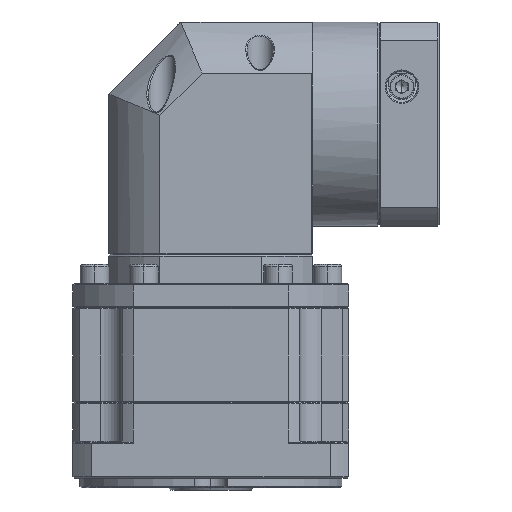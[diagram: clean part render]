
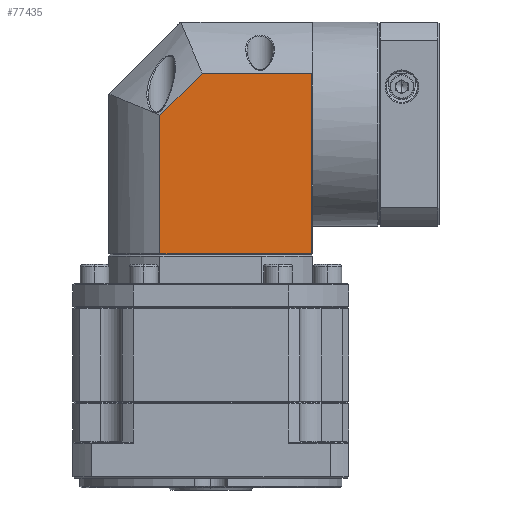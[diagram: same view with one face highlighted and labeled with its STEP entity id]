
A CAD part, front view. The second image highlights one B-rep face of the part: STEP entity #77435.
In plain terms, the highlighted planar face has unit normal (0, -1, 0).
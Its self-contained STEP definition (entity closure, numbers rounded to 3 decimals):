
#4655 = EDGE_CURVE ( 'NONE', #13163, #32283, #121023, .T. ) ;
#5047 = CARTESIAN_POINT ( 'NONE',  ( 103.008, 52.79, 49.739 ) ) ;
#7837 = VERTEX_POINT ( 'NONE', #38185 ) ;
#10824 = ORIENTED_EDGE ( 'NONE', *, *, #4655, .F. ) ;
#13163 = VERTEX_POINT ( 'NONE', #24930 ) ;
#14314 = DIRECTION ( 'NONE',  ( 0., 0., 1. ) ) ;
#17048 = EDGE_CURVE ( 'NONE', #54670, #13163, #22186, .T. ) ;
#19219 = DIRECTION ( 'NONE',  ( 1., 0., 0. ) ) ;
#20607 = CARTESIAN_POINT ( 'NONE',  ( 103.508, 52.79, 71.026 ) ) ;
#21070 = DIRECTION ( 'NONE',  ( -1., 0., 0. ) ) ;
#22186 = LINE ( 'NONE', #108319, #102971 ) ;
#24930 = CARTESIAN_POINT ( 'NONE',  ( 57.326, 52.79, 49.739 ) ) ;
#32283 = VERTEX_POINT ( 'NONE', #5047 ) ;
#33575 = ORIENTED_EDGE ( 'NONE', *, *, #49769, .F. ) ;
#38185 = CARTESIAN_POINT ( 'NONE',  ( 103.008, 52.79, -25.474 ) ) ;
#39923 = CARTESIAN_POINT ( 'NONE',  ( 103.508, 52.79, -25.474 ) ) ;
#40187 = EDGE_LOOP ( 'NONE', ( #61792, #124818, #10824, #102368, #33575 ) ) ;
#42417 = EDGE_CURVE ( 'NONE', #32283, #7837, #65817, .T. ) ;
#42484 = DIRECTION ( 'NONE',  ( 0.707, 0., 0.707 ) ) ;
#43924 = CARTESIAN_POINT ( 'NONE',  ( 103.508, 52.79, 49.739 ) ) ;
#45179 = VECTOR ( 'NONE', #118847, 1000. ) ;
#49769 = EDGE_CURVE ( 'NONE', #65792, #54670, #96739, .T. ) ;
#54670 = VERTEX_POINT ( 'NONE', #128621 ) ;
#61792 = ORIENTED_EDGE ( 'NONE', *, *, #66881, .T. ) ;
#65792 = VERTEX_POINT ( 'NONE', #137639 ) ;
#65817 = LINE ( 'NONE', #107901, #45179 ) ;
#66881 = EDGE_CURVE ( 'NONE', #65792, #7837, #123897, .T. ) ;
#77435 = ADVANCED_FACE ( 'NONE', ( #114153 ), #86382, .F. ) ;
#86382 = PLANE ( 'NONE',  #129720 ) ;
#89642 = VECTOR ( 'NONE', #19219, 1000. ) ;
#96739 = LINE ( 'NONE', #135746, #115551 ) ;
#100523 = DIRECTION ( 'NONE',  ( 1., 0., 0. ) ) ;
#102368 = ORIENTED_EDGE ( 'NONE', *, *, #17048, .F. ) ;
#102971 = VECTOR ( 'NONE', #42484, 1000. ) ;
#107901 = CARTESIAN_POINT ( 'NONE',  ( 103.008, 52.79, 71.026 ) ) ;
#108319 = CARTESIAN_POINT ( 'NONE',  ( 39.795, 52.79, 32.209 ) ) ;
#114153 = FACE_OUTER_BOUND ( 'NONE', #40187, .T. ) ;
#115551 = VECTOR ( 'NONE', #14314, 1000. ) ;
#118569 = DIRECTION ( 'NONE',  ( 0., 1., 0. ) ) ;
#118847 = DIRECTION ( 'NONE',  ( 0., 0., -1. ) ) ;
#121023 = LINE ( 'NONE', #43924, #139979 ) ;
#123897 = LINE ( 'NONE', #39923, #89642 ) ;
#124818 = ORIENTED_EDGE ( 'NONE', *, *, #42417, .F. ) ;
#128621 = CARTESIAN_POINT ( 'NONE',  ( 39.795, 52.79, 32.209 ) ) ;
#129720 = AXIS2_PLACEMENT_3D ( 'NONE', #20607, #118569, #21070 ) ;
#135746 = CARTESIAN_POINT ( 'NONE',  ( 39.795, 52.79, 71.026 ) ) ;
#137639 = CARTESIAN_POINT ( 'NONE',  ( 39.795, 52.79, -25.474 ) ) ;
#139979 = VECTOR ( 'NONE', #100523, 1000. ) ;
